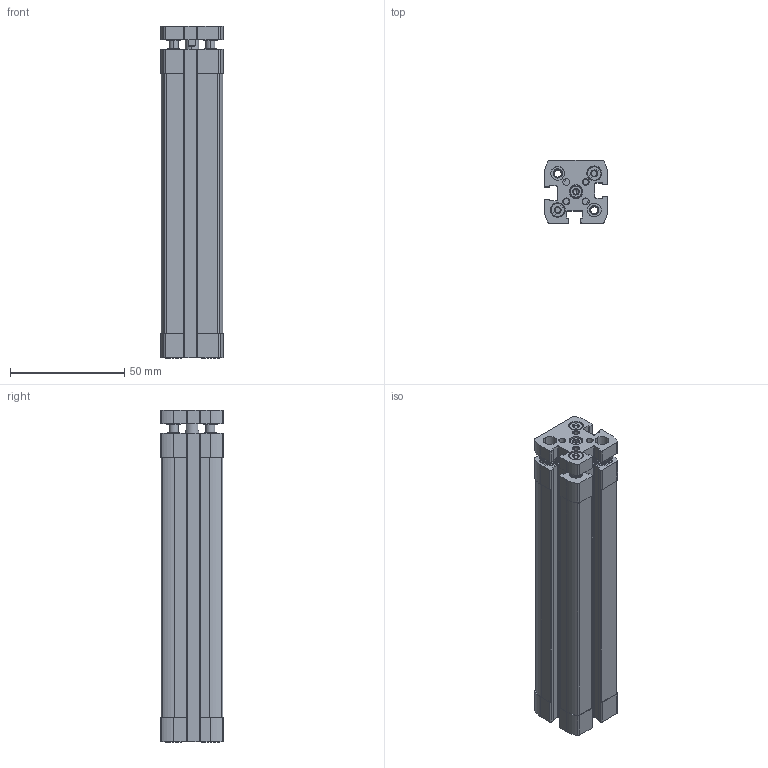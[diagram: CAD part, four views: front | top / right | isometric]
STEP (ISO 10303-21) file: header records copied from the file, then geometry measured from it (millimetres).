
FILE_DESCRIPTION (( 'STEP AP203' ), '1' );
FILE_NAME ('CCNG12-100.STEP', '2017-04-13T14:24:43', ( '' ), ( '' ), 'SwSTEP 2.0', 'SolidWorks 2016', '' );
FILE_SCHEMA (( 'CONFIG_CONTROL_DESIGN' ));
Length unit declared in the file: millimetre
Products named in the file (3): CCNG-12-100---(KS); CCNG12-100; CCNG-12-100--(Z)
Assembly tree (2 placements, depth 2):
  CCNG12-100
    CCNG-12-100--(Z)
    CCNG-12-100---(KS)
Bounding box: 27.5 x 27.5 x 145.2 mm (x, y, z)
Volume: 71976.2 mm3; surface area: 42298.6 mm2
Topology: 2 solids, 6 shells, 538 faces, 1398 edges, 913 vertices
Faces by surface type: plane 252, cylinder 212, cone 70, bspline 4
Entity records: 17083 total; most frequent: CARTESIAN_POINT 3328, DIRECTION 2864, ORIENTED_EDGE 2792, EDGE_CURVE 1396, AXIS2_PLACEMENT_3D 1061, VERTEX_POINT 913, LINE 742, VECTOR 742
